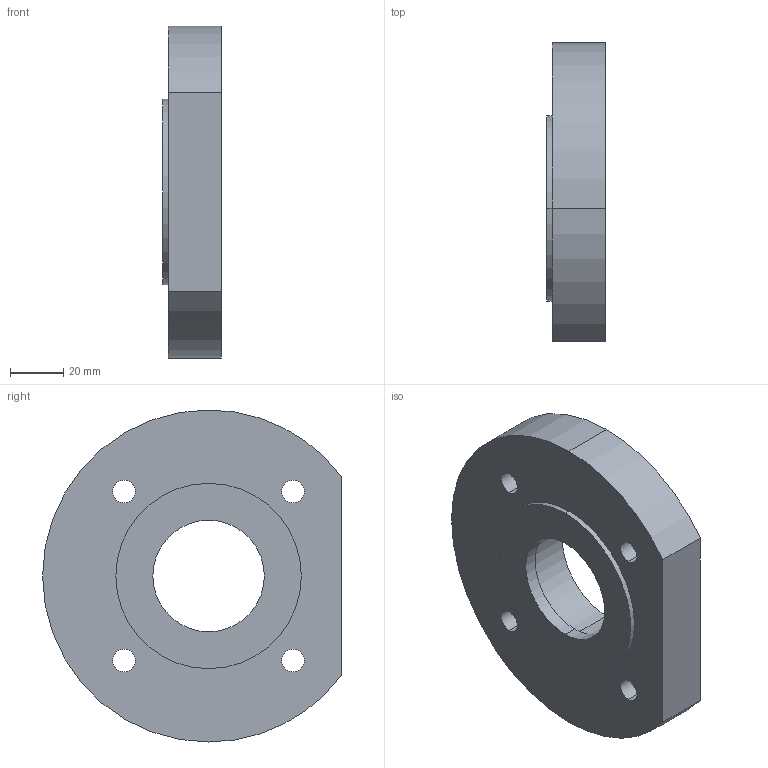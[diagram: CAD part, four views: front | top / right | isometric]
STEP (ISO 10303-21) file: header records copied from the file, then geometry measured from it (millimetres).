
FILE_DESCRIPTION (( 'STEP AP203' ), '1' );
FILE_NAME ('084.802.011.STEP', '2013-01-29T13:30:54', ( 'Alusic' ), ( 'Alusic' ), 'SwSTEP 2.0', 'SolidWorks 2011', '' );
FILE_SCHEMA (( 'CONFIG_CONTROL_DESIGN' ));
Length unit declared in the file: millimetre
Products named in the file (1): 084.802.011
Bounding box: 22 x 112.5 x 125 mm (x, y, z)
Volume: 197077.6 mm3; surface area: 34837.4 mm2
Topology: 1 solids, 1 shells, 38 faces, 94 edges, 56 vertices
Faces by surface type: cylinder 25, cone 8, plane 5
Entity records: 1185 total; most frequent: DIRECTION 214, CARTESIAN_POINT 181, ORIENTED_EDGE 172, AXIS2_PLACEMENT_3D 89, EDGE_CURVE 86, VERTEX_POINT 56, EDGE_LOOP 54, CIRCLE 50
